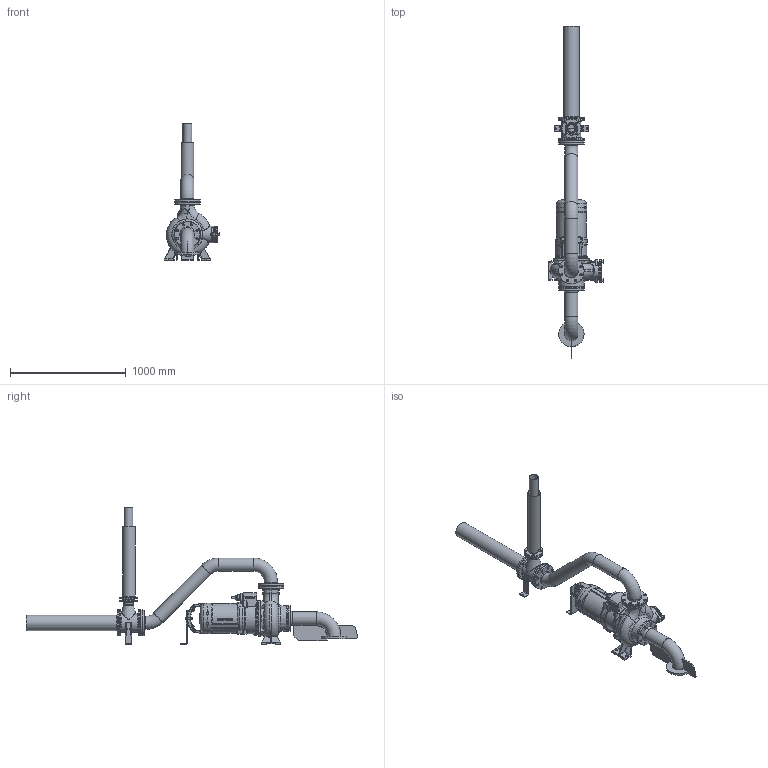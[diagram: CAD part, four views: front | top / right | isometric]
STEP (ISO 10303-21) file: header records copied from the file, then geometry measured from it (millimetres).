
FILE_DESCRIPTION(/* description */ (''),/* implementation_level */ '2;1');
FILE_NAME(/* name */ 'H:\3D\Projekte\@Wirbeljet\700 Amajet_2021_step\Amajet_L_Bottom_suction_KA_16.stp',/* time_stamp */ '2021-04-12T22:45:18+02:00',/* author */ ('emmrpat'),/* organization */ (''),/* preprocessor_version */ 'ST-DEVELOPER v18',/* originating_system */ 'Autodesk Inventor 2020',/* authorisation */ '');
FILE_SCHEMA (('AUTOMOTIVE_DESIGN { 1 0 10303 214 3 1 1 }'));
Length unit declared in the file: millimetre
Products named in the file (52): Amajet_L_Bottom_suction_KA_16; Aufstellung_01; KRT_100-250_komplett; Sewatec_100-250_0W383895_01; Putzlochdeckel_Z065469; ISO 4032 - M16; DIN 188 - M16 x 70; UG155595214_01; ug1004874zmn001_01; ug1004383zmn001_01; ug1510147zmk001_01_BODY; ug1510095zmk001_01; ug1510137zmk001_01; ug1510136zmk001_01; ug1510110zmk001_01; UG154735011ZMM001_02; UG153885001ZMM001_01; ug1012584zmn001_01; ug1002091zmn001_01; UG154911611ZMM001_04; ISO 4032 - M16_1; ISO 7089 -  16; DIN 835 - M16 x 50; Ansaugstück_DN100_Bodenabsaugung; Anschlußrohr_Teil_71-14-01; Bogen DN100 BA3; Bogen DN100 BA3_45°; Losflansch_DN100_PN10_12mm; Vorschweißbördel_30mm_DN100_PN10; Rohr_DN100_585mm; Rohr_DN100_300mm; Stützwinkel_neu_01; Stützwinkel_neu; Klemmblech_neu; ISO 4032 - M10; ISO 7089 - 10 - 140 HV; ISO 4017 - M10 x 55; Dichtung1_DN100_5mm; Flansch_0W308059; 0W308365_Vari_01_Duese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
Assembly tree (95 placements, depth 5):
  Amajet_L_Bottom_suction_KA_16
    Aufstellung_01
      KRT_100-250_komplett
        Sewatec_100-250_0W383895_01
        Putzlochdeckel_Z065469
        ISO 4032 - M16  x2
        ISO 7089 -  16  x2
        DIN 188 - M16 x 70  x2
      UG155595214_01
        ug1004874zmn001_01  x4
        ug1004383zmn001_01  x2
        ug1510147zmk001_01_BODY
          ug1510095zmk001_01
          ug1510137zmk001_01  x12
          ug1510136zmk001_01
          ug1510110zmk001_01
        UG154735011ZMM001_02
        UG153885001ZMM001_01
        ug1012584zmn001_01
        ug1002091zmn001_01
        UG154911611ZMM001_04
        ISO 4032 - M16_1  x4
        ISO 7089 -  16  x4
        DIN 835 - M16 x 50  x4
    Dichtung1_DN100_5mm  x3
    Ansaugstück_DN100_Bodenabsaugung
    Anschlußrohr_Teil_71-14-01
      Bogen DN100 BA3
      Bogen DN100 BA3_45°  x2
      Losflansch_DN100_PN10_12mm  x2
      Vorschweißbördel_30mm_DN100_PN10  x2
      Rohr_DN100_585mm
      Rohr_DN100_300mm
    Stützwinkel_neu_01
      Stützwinkel_neu
      Klemmblech_neu
      ISO 4032 - M10  x2
      ISO 7089 - 10 - 140 HV  x2
      ISO 4017 - M10 x 55  x2
    Flansch_0W308059
    Dichtung_DN100_5mm  x2
    0W308365_Vari_01_Duese
    Strahlrohr_133mm_800mm
    0W308365_Vari_01_Duese_1
    Dichtung_DN65_4mm_110
    0W308366_800mm_Belueftung
      0W308366_800mm_Rohr
      Vorschweißflansch_DN65_PN6
    Kabelschutzrohr_01
    0W382247_Mischkammer
    Verstelllasche  x2
    ISO 7089 -  8  x4
    ISO 4762  - M8 x 16  x4
Bounding box: 480 x 2870.57 x 1184 mm (x, y, z)
Volume: 27873258.6 mm3; surface area: 6790117 mm2
Topology: 91 solids, 91 shells, 3357 faces, 8116 edges, 4961 vertices
Faces by surface type: plane 1042, cylinder 906, bspline 715, torus 379, cone 182, sphere 133
Full cylindrical faces by diameter (mm): 3 x12, 3.05 x2, 3.3 x1, 4 x12, 5 x12, 6 x12, 6.8 x1, 7 x24, 8 x8, 8.376 x2, 8.4 x4, 8.5 x6, 10 x8, 10.5 x2, 11 x6, 11.5 x8, 12 x8, 13 x8, 13.835 x6, 14 x4, 14.63 x2, 15.25 x1, 16 x24, 16.662 x1, 17 x6, 17.1 x1, 17.5 x4, 18 x61, 20 x2, 22 x1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
Entity records: 130582 total; most frequent: CARTESIAN_POINT 59801, ORIENTED_EDGE 14316, DIRECTION 13968, EDGE_CURVE 7158, AXIS2_PLACEMENT_3D 5822, VERTEX_POINT 4410, EDGE_LOOP 3354, CIRCLE 3238
